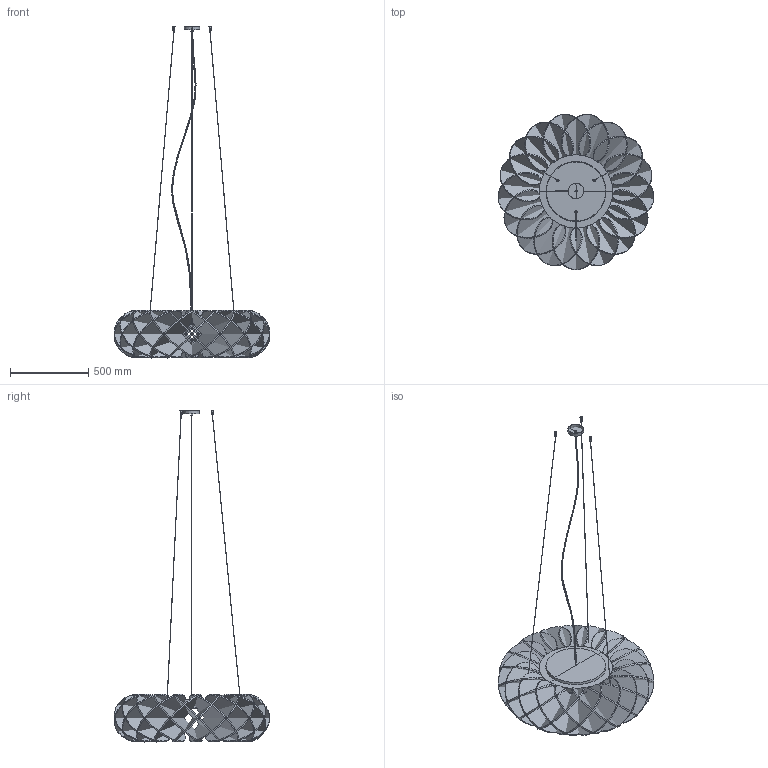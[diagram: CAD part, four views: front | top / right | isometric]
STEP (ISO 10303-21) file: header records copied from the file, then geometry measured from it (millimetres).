
FILE_DESCRIPTION(/* description */ (''),/* implementation_level */ '2;1');
FILE_NAME(/* name */ 'Halo Light 1000_Lumenear_STEP',/* time_stamp */ '2024-11-07T11:32:54+01:00',/* author */ (''),/* organization */ (''),/* preprocessor_version */ 'ST-DEVELOPER v16.5',/* originating_system */ 'Rhino 7.37',/* authorisation */ '');
FILE_SCHEMA (('CONFIG_CONTROL_DESIGN'));
Length unit declared in the file: millimetre
Products named in the file (1): Document
Bounding box: 997.05 x 993.92 x 2125.37 mm (x, y, z)
Volume: 39941675 mm3; surface area: 8200829.8 mm2
Topology: 48 solids, 48 shells, 290 faces, 517 edges, 334 vertices
Faces by surface type: plane 131, bspline 99, cylinder 60
Entity records: 22175 total; most frequent: CARTESIAN_POINT 18295, ORIENTED_EDGE 1026, EDGE_CURVE 513, VERTEX_POINT 334, EDGE_LOOP 313, ADVANCED_FACE 290, FACE_OUTER_BOUND 290, B_SPLINE_CURVE_WITH_KNOTS 264
